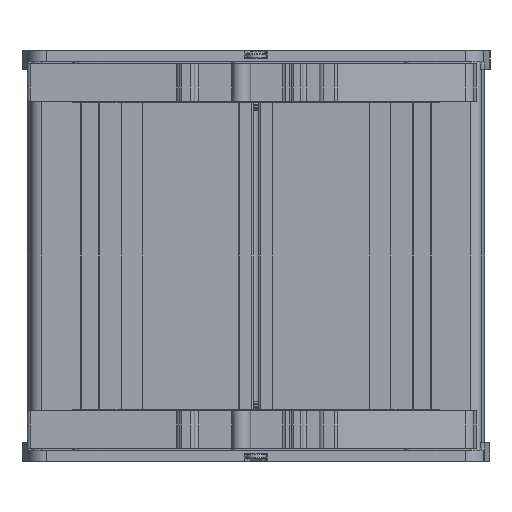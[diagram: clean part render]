
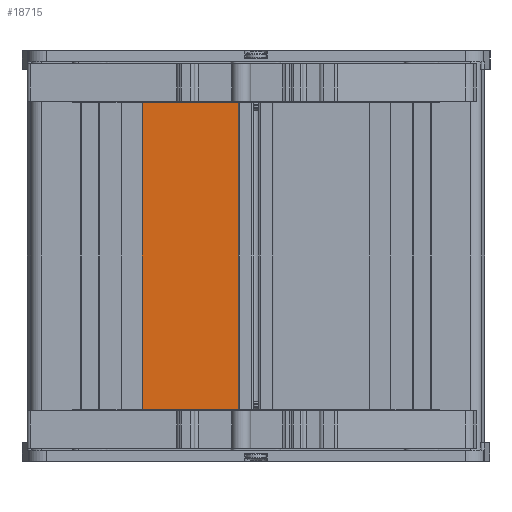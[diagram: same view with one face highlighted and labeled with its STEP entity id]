
A CAD part, front view. The second image highlights one B-rep face of the part: STEP entity #18715.
In plain terms, the highlighted planar face has unit normal (0, -1, 0).
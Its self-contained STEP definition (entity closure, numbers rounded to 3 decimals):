
#965=FACE_OUTER_BOUND('',#2037,.T.);
#2037=EDGE_LOOP('',(#13085,#13086,#13087,#13088));
#3974=LINE('',#28038,#5773);
#4153=LINE('',#28651,#5952);
#4245=LINE('',#28866,#6044);
#4246=LINE('',#28868,#6045);
#5773=VECTOR('',#22029,1.);
#5952=VECTOR('',#22532,1.);
#6044=VECTOR('',#22798,10.);
#6045=VECTOR('',#22801,1.);
#7601=VERTEX_POINT('',#28035);
#7602=VERTEX_POINT('',#28037);
#7873=VERTEX_POINT('',#28648);
#7874=VERTEX_POINT('',#28650);
#9457=EDGE_CURVE('',#7601,#7602,#3974,.T.);
#9763=EDGE_CURVE('',#7874,#7873,#4153,.T.);
#9873=EDGE_CURVE('',#7601,#7874,#4245,.T.);
#9874=EDGE_CURVE('',#7602,#7873,#4246,.T.);
#13085=ORIENTED_EDGE('',*,*,#9874,.F.);
#13086=ORIENTED_EDGE('',*,*,#9457,.F.);
#13087=ORIENTED_EDGE('',*,*,#9873,.T.);
#13088=ORIENTED_EDGE('',*,*,#9763,.T.);
#18164=PLANE('',#20123);
#18715=ADVANCED_FACE('',(#965),#18164,.F.);
#20123=AXIS2_PLACEMENT_3D('',#28867,#22799,#22800);
#22029=DIRECTION('',(1.,0.,0.));
#22532=DIRECTION('',(1.,0.,0.));
#22798=DIRECTION('',(0.,0.,-1.));
#22799=DIRECTION('center_axis',(0.,1.,0.));
#22800=DIRECTION('ref_axis',(1.,0.,0.));
#22801=DIRECTION('',(0.,0.,-1.));
#28035=CARTESIAN_POINT('',(-27.093,9.1,52.));
#28037=CARTESIAN_POINT('',(0.107,9.1,52.));
#28038=CARTESIAN_POINT('',(5.747,9.1,52.));
#28648=CARTESIAN_POINT('',(0.107,9.1,-52.));
#28650=CARTESIAN_POINT('',(-27.093,9.1,-52.));
#28651=CARTESIAN_POINT('',(5.747,9.1,-52.));
#28866=CARTESIAN_POINT('',(-27.093,9.1,19.25));
#28867=CARTESIAN_POINT('Origin',(-35.894,9.1,-22.75));
#28868=CARTESIAN_POINT('',(0.107,9.1,0.504));
